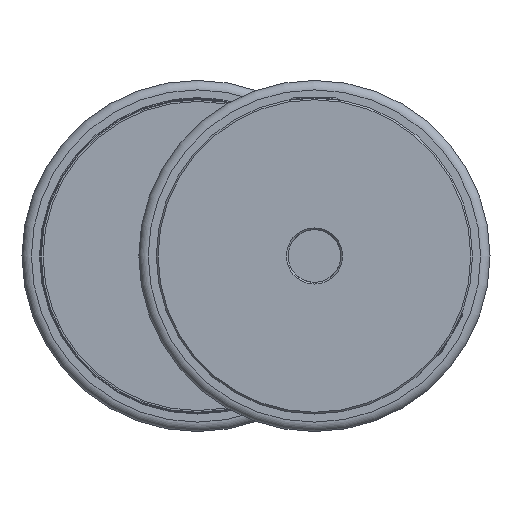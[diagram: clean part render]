
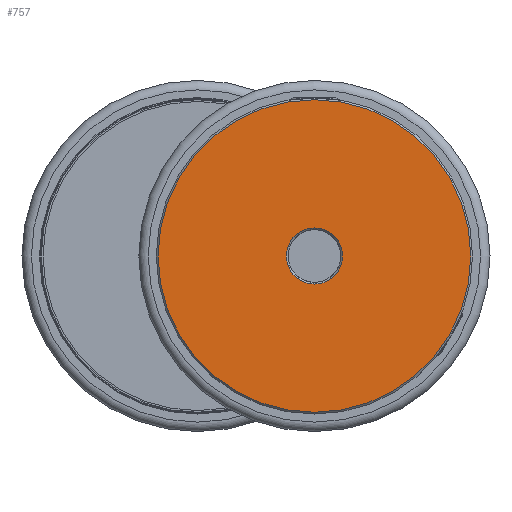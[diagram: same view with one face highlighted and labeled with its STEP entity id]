
A CAD part, left-side view. The second image highlights one B-rep face of the part: STEP entity #757.
In plain terms, the highlighted planar face has unit normal (-1, 0, 0).
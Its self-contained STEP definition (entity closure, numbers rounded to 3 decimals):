
#757 = ADVANCED_FACE( 'NONE', ( #1136, #1137 ), #1138, .F. );
#1136 = FACE_OUTER_BOUND( '', #1317, .T. );
#1137 = FACE_BOUND( '', #1318, .T. );
#1138 = PLANE( '', #1319 );
#1317 = EDGE_LOOP( '', ( #1583 ) );
#1318 = EDGE_LOOP( '', ( #1584 ) );
#1319 = AXIS2_PLACEMENT_3D( '', #1585, #1586, #1587 );
#1583 = ORIENTED_EDGE( '', *, *, #1874, .T. );
#1584 = ORIENTED_EDGE( '', *, *, #1870, .T. );
#1585 = CARTESIAN_POINT( '', ( 0., 18., 0. ) );
#1586 = DIRECTION( '', ( 1., 0., 0. ) );
#1587 = DIRECTION( '', ( 0., 1., 0. ) );
#1870 = EDGE_CURVE( 'NONE', #2093, #2093, #2094, .T. );
#1874 = EDGE_CURVE( 'NONE', #2100, #2100, #2101, .F. );
#2093 = VERTEX_POINT( '', #2169 );
#2094 = CIRCLE( '', #2170, 3.2 );
#2100 = VERTEX_POINT( '', #2241 );
#2101 = CIRCLE( '', #2242, 17.8 );
#2169 = CARTESIAN_POINT( '', ( 0., 0., -3.2 ) );
#2170 = AXIS2_PLACEMENT_3D( '', #2406, #2407, #2408 );
#2241 = CARTESIAN_POINT( '', ( 0., 0., -17.8 ) );
#2242 = AXIS2_PLACEMENT_3D( '', #2415, #2416, #2417 );
#2406 = CARTESIAN_POINT( '', ( 0., 0., 0. ) );
#2407 = DIRECTION( '', ( 1., 0., 0. ) );
#2408 = DIRECTION( '', ( 0., 0., -1. ) );
#2415 = CARTESIAN_POINT( '', ( 0., 0., 0. ) );
#2416 = DIRECTION( '', ( 1., 0., 0. ) );
#2417 = DIRECTION( '', ( 0., 0., -1. ) );
